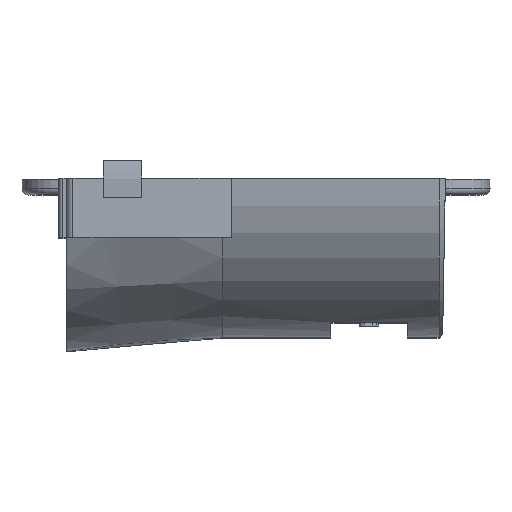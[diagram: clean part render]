
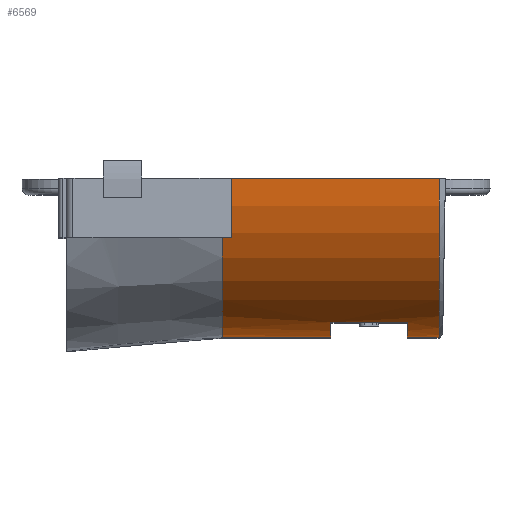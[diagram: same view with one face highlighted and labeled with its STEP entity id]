
A CAD part, top view. The second image highlights one B-rep face of the part: STEP entity #6569.
In plain terms, the highlighted cylindrical face has radius 12.5 mm (diameter 25 mm), a partial arc.
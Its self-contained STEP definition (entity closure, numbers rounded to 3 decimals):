
#52=FACE_BOUND('',#1208,.T.);
#346=CIRCLE('',#6923,12.5);
#347=CIRCLE('',#6925,12.5);
#348=CIRCLE('',#6928,12.5);
#352=CIRCLE('',#6947,12.5);
#392=CYLINDRICAL_SURFACE('',#6972,12.5);
#863=FACE_OUTER_BOUND('',#1207,.T.);
#1207=EDGE_LOOP('',(#5242,#5243,#5244,#5245));
#1208=EDGE_LOOP('',(#5246,#5247,#5248,#5249));
#1429=LINE('',#8508,#2120);
#1677=LINE('',#9841,#2368);
#1679=LINE('',#9845,#2370);
#1691=LINE('',#9877,#2382);
#2120=VECTOR('',#7189,10.);
#2368=VECTOR('',#7603,10.);
#2370=VECTOR('',#7605,10.);
#2382=VECTOR('',#7635,10.);
#2806=VERTEX_POINT('',#8505);
#2807=VERTEX_POINT('',#8507);
#3040=VERTEX_POINT('',#9839);
#3041=VERTEX_POINT('',#9840);
#3042=VERTEX_POINT('',#9842);
#3043=VERTEX_POINT('',#9844);
#3044=VERTEX_POINT('',#9853);
#3054=VERTEX_POINT('',#9875);
#3433=EDGE_CURVE('',#2807,#2806,#1429,.T.);
#3780=EDGE_CURVE('',#3040,#3041,#1677,.T.);
#3782=EDGE_CURVE('',#3043,#3042,#1679,.T.);
#3784=EDGE_CURVE('',#3041,#3043,#346,.T.);
#3785=EDGE_CURVE('',#3042,#3040,#347,.T.);
#3787=EDGE_CURVE('',#3044,#2806,#348,.T.);
#3798=EDGE_CURVE('',#3054,#3044,#1691,.T.);
#3825=EDGE_CURVE('',#2807,#3054,#352,.T.);
#5242=ORIENTED_EDGE('',*,*,#3787,.F.);
#5243=ORIENTED_EDGE('',*,*,#3798,.F.);
#5244=ORIENTED_EDGE('',*,*,#3825,.F.);
#5245=ORIENTED_EDGE('',*,*,#3433,.T.);
#5246=ORIENTED_EDGE('',*,*,#3785,.T.);
#5247=ORIENTED_EDGE('',*,*,#3780,.T.);
#5248=ORIENTED_EDGE('',*,*,#3784,.T.);
#5249=ORIENTED_EDGE('',*,*,#3782,.T.);
#6569=ADVANCED_FACE('',(#863,#52),#392,.T.);
#6923=AXIS2_PLACEMENT_3D('',#9848,#7609,#7610);
#6925=AXIS2_PLACEMENT_3D('',#9850,#7613,#7614);
#6928=AXIS2_PLACEMENT_3D('',#9855,#7620,#7621);
#6947=AXIS2_PLACEMENT_3D('',#9930,#7692,#7693);
#6972=AXIS2_PLACEMENT_3D('',#9999,#7766,#7767);
#7189=DIRECTION('',(1.,0.,0.));
#7603=DIRECTION('',(1.,0.,0.));
#7605=DIRECTION('',(-1.,0.,0.));
#7609=DIRECTION('center_axis',(1.,0.,0.));
#7610=DIRECTION('ref_axis',(0.,-1.,0.));
#7613=DIRECTION('center_axis',(-1.,0.,0.));
#7614=DIRECTION('ref_axis',(0.,-1.,0.));
#7620=DIRECTION('center_axis',(1.,0.,0.));
#7621=DIRECTION('ref_axis',(0.,-1.,0.));
#7635=DIRECTION('',(1.,0.,0.));
#7692=DIRECTION('center_axis',(-1.,0.,0.));
#7693=DIRECTION('ref_axis',(0.,-1.,0.));
#7766=DIRECTION('center_axis',(-1.,0.,0.));
#7767=DIRECTION('ref_axis',(0.,-1.,0.));
#8505=CARTESIAN_POINT('',(28.5,0.,-12.5));
#8507=CARTESIAN_POINT('',(11.43,0.,-12.5));
#8508=CARTESIAN_POINT('',(27.9,0.,-12.5));
#9839=CARTESIAN_POINT('',(20.,-11.3,5.344));
#9840=CARTESIAN_POINT('',(26.,-11.3,5.344));
#9841=CARTESIAN_POINT('',(19.665,-11.3,5.344));
#9842=CARTESIAN_POINT('',(20.,-11.3,-5.344));
#9844=CARTESIAN_POINT('',(26.,-11.3,-5.344));
#9845=CARTESIAN_POINT('',(19.665,-11.3,-5.344));
#9848=CARTESIAN_POINT('Origin',(26.,0.,
0.));
#9850=CARTESIAN_POINT('Origin',(20.,0.,
0.));
#9853=CARTESIAN_POINT('',(28.5,0.,12.5));
#9855=CARTESIAN_POINT('Origin',(28.5,0.,
0.));
#9875=CARTESIAN_POINT('',(11.43,0.,12.5));
#9877=CARTESIAN_POINT('',(27.9,0.,12.5));
#9930=CARTESIAN_POINT('Origin',(11.43,0.,
0.));
#9999=CARTESIAN_POINT('Origin',(19.665,0.,
0.));
